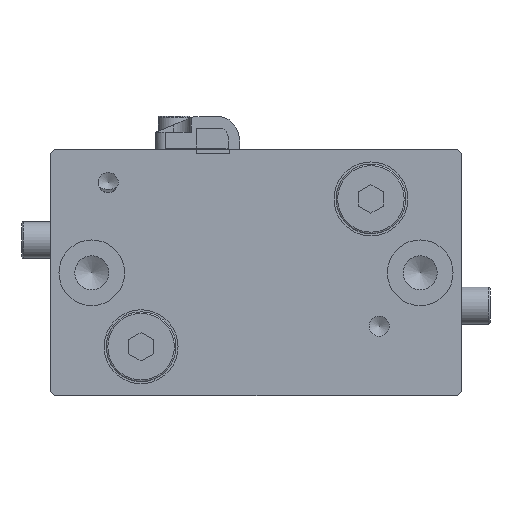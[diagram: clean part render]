
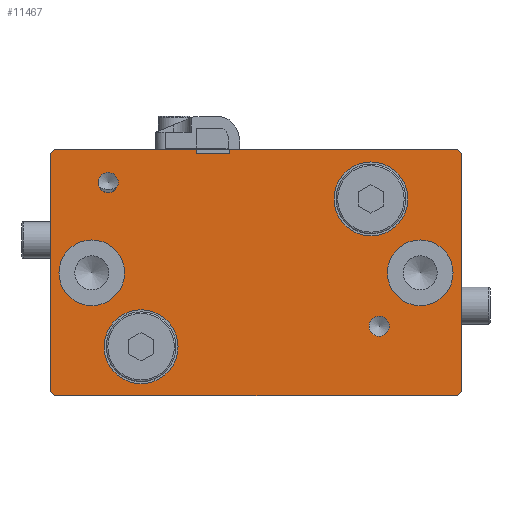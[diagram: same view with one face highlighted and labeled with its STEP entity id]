
A CAD part, front view. The second image highlights one B-rep face of the part: STEP entity #11467.
In plain terms, the highlighted planar face has unit normal (0, -1, 0) as drawn and (0, 1, 0) by its records, which use the part's own axes.
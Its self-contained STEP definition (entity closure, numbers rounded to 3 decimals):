
#295=CIRCLE('',#12029,1.23);
#296=CIRCLE('',#12030,1.23);
#297=CIRCLE('',#12031,4.5);
#298=CIRCLE('',#12032,4.5);
#299=CIRCLE('',#12033,4.);
#300=CIRCLE('',#12034,4.);
#597=ORIENTED_EDGE('',*,*,#3148,.T.);
#598=ORIENTED_EDGE('',*,*,#3149,.T.);
#599=ORIENTED_EDGE('',*,*,#3150,.T.);
#600=ORIENTED_EDGE('',*,*,#3151,.T.);
#601=ORIENTED_EDGE('',*,*,#3152,.T.);
#602=ORIENTED_EDGE('',*,*,#3153,.T.);
#603=ORIENTED_EDGE('',*,*,#3154,.T.);
#604=ORIENTED_EDGE('',*,*,#3155,.T.);
#605=ORIENTED_EDGE('',*,*,#3132,.T.);
#606=ORIENTED_EDGE('',*,*,#3156,.T.);
#607=ORIENTED_EDGE('',*,*,#3103,.T.);
#608=ORIENTED_EDGE('',*,*,#3157,.T.);
#609=ORIENTED_EDGE('',*,*,#3158,.T.);
#610=ORIENTED_EDGE('',*,*,#3159,.T.);
#611=ORIENTED_EDGE('',*,*,#3160,.T.);
#612=ORIENTED_EDGE('',*,*,#3161,.T.);
#613=ORIENTED_EDGE('',*,*,#3134,.T.);
#614=ORIENTED_EDGE('',*,*,#3162,.F.);
#3103=EDGE_CURVE('',#4380,#4379,#5267,.T.);
#3132=EDGE_CURVE('',#4406,#4408,#5293,.T.);
#3134=EDGE_CURVE('',#4411,#4409,#5295,.T.);
#3148=EDGE_CURVE('',#4424,#4424,#295,.T.);
#3149=EDGE_CURVE('',#4425,#4425,#296,.T.);
#3150=EDGE_CURVE('',#4426,#4426,#297,.T.);
#3151=EDGE_CURVE('',#4427,#4427,#298,.T.);
#3152=EDGE_CURVE('',#4428,#4428,#299,.T.);
#3153=EDGE_CURVE('',#4429,#4429,#300,.T.);
#3154=EDGE_CURVE('',#4430,#4431,#5306,.T.);
#3155=EDGE_CURVE('',#4431,#4406,#5307,.T.);
#3156=EDGE_CURVE('',#4408,#4380,#5308,.T.);
#3157=EDGE_CURVE('',#4379,#4432,#5309,.T.);
#3158=EDGE_CURVE('',#4432,#4433,#5310,.T.);
#3159=EDGE_CURVE('',#4433,#4434,#5311,.T.);
#3160=EDGE_CURVE('',#4434,#4435,#5312,.T.);
#3161=EDGE_CURVE('',#4435,#4411,#5313,.T.);
#3162=EDGE_CURVE('',#4430,#4409,#5314,.T.);
#4379=VERTEX_POINT('',#15432);
#4380=VERTEX_POINT('',#15434);
#4406=VERTEX_POINT('',#15506);
#4408=VERTEX_POINT('',#15510);
#4409=VERTEX_POINT('',#15514);
#4411=VERTEX_POINT('',#15517);
#4424=VERTEX_POINT('',#15547);
#4425=VERTEX_POINT('',#15549);
#4426=VERTEX_POINT('',#15551);
#4427=VERTEX_POINT('',#15553);
#4428=VERTEX_POINT('',#15555);
#4429=VERTEX_POINT('',#15557);
#4430=VERTEX_POINT('',#15559);
#4431=VERTEX_POINT('',#15560);
#4432=VERTEX_POINT('',#15564);
#4433=VERTEX_POINT('',#15566);
#4434=VERTEX_POINT('',#15568);
#4435=VERTEX_POINT('',#15570);
#5267=LINE('',#15433,#6267);
#5293=LINE('',#15511,#6293);
#5295=LINE('',#15516,#6295);
#5306=LINE('',#15558,#6306);
#5307=LINE('',#15561,#6307);
#5308=LINE('',#15562,#6308);
#5309=LINE('',#15563,#6309);
#5310=LINE('',#15565,#6310);
#5311=LINE('',#15567,#6311);
#5312=LINE('',#15569,#6312);
#5313=LINE('',#15571,#6313);
#5314=LINE('',#15572,#6314);
#6267=VECTOR('',#12830,1000.);
#6293=VECTOR('',#12862,1000.);
#6295=VECTOR('',#12866,1000.);
#6306=VECTOR('',#12901,1000.);
#6307=VECTOR('',#12902,1000.);
#6308=VECTOR('',#12903,1000.);
#6309=VECTOR('',#12904,1000.);
#6310=VECTOR('',#12905,1000.);
#6311=VECTOR('',#12906,1000.);
#6312=VECTOR('',#12907,1000.);
#6313=VECTOR('',#12908,1000.);
#6314=VECTOR('',#12909,1000.);
#7272=EDGE_LOOP('',(#597));
#7273=EDGE_LOOP('',(#598));
#7274=EDGE_LOOP('',(#599));
#7275=EDGE_LOOP('',(#600));
#7276=EDGE_LOOP('',(#601));
#7277=EDGE_LOOP('',(#602));
#7278=EDGE_LOOP('',(#603,#604,#605,#606,#607,#608,#609,#610,#611,#612,#613,
#614));
#7925=FACE_BOUND('',#7272,.T.);
#7926=FACE_BOUND('',#7273,.T.);
#7927=FACE_BOUND('',#7274,.T.);
#7928=FACE_BOUND('',#7275,.T.);
#7929=FACE_BOUND('',#7276,.T.);
#7930=FACE_BOUND('',#7277,.T.);
#7931=FACE_BOUND('',#7278,.T.);
#8587=PLANE('',#12028);
#11467=ADVANCED_FACE('',(#7925,#7926,#7927,#7928,#7929,#7930,#7931),#8587,
 .T.);
#12028=AXIS2_PLACEMENT_3D('',#15545,#12887,#12888);
#12029=AXIS2_PLACEMENT_3D('',#15546,#12889,#12890);
#12030=AXIS2_PLACEMENT_3D('',#15548,#12891,#12892);
#12031=AXIS2_PLACEMENT_3D('',#15550,#12893,#12894);
#12032=AXIS2_PLACEMENT_3D('',#15552,#12895,#12896);
#12033=AXIS2_PLACEMENT_3D('',#15554,#12897,#12898);
#12034=AXIS2_PLACEMENT_3D('',#15556,#12899,#12900);
#12830=DIRECTION('',(0.,0.,1.));
#12862=DIRECTION('',(-1.,0.,0.));
#12866=DIRECTION('',(-1.,0.,0.));
#12887=DIRECTION('',(0.,1.,0.));
#12888=DIRECTION('',(0.,0.,1.));
#12889=DIRECTION('',(0.,-1.,0.));
#12890=DIRECTION('',(0.,0.,-1.));
#12891=DIRECTION('',(0.,-1.,0.));
#12892=DIRECTION('',(0.,0.,-1.));
#12893=DIRECTION('',(0.,-1.,0.));
#12894=DIRECTION('',(0.,0.,-1.));
#12895=DIRECTION('',(0.,-1.,0.));
#12896=DIRECTION('',(0.,0.,-1.));
#12897=DIRECTION('',(0.,-1.,0.));
#12898=DIRECTION('',(0.,0.,-1.));
#12899=DIRECTION('',(0.,-1.,0.));
#12900=DIRECTION('',(0.,0.,-1.));
#12901=DIRECTION('',(-1.,0.,0.));
#12902=DIRECTION('',(0.,0.,-1.));
#12903=DIRECTION('',(-0.707,0.,0.707));
#12904=DIRECTION('',(0.707,0.,0.707));
#12905=DIRECTION('',(1.,0.,0.));
#12906=DIRECTION('',(0.707,0.,-0.707));
#12907=DIRECTION('',(0.,0.,-1.));
#12908=DIRECTION('',(-0.707,0.,-0.707));
#12909=DIRECTION('',(0.,0.,-1.));
#15432=CARTESIAN_POINT('',(-25.,42.,14.5));
#15433=CARTESIAN_POINT('',(-25.,42.,-14.5));
#15434=CARTESIAN_POINT('',(-25.,42.,-14.5));
#15506=CARTESIAN_POINT('',(-7.3,42.,-15.));
#15510=CARTESIAN_POINT('',(-24.5,42.,-15.));
#15511=CARTESIAN_POINT('',(24.5,42.,-15.));
#15514=CARTESIAN_POINT('',(-3.2,42.,-15.));
#15516=CARTESIAN_POINT('',(24.5,42.,-15.));
#15517=CARTESIAN_POINT('',(24.5,42.,-15.));
#15545=CARTESIAN_POINT('',(0.,42.,0.));
#15546=CARTESIAN_POINT('',(15.,42.,6.5));
#15547=CARTESIAN_POINT('',(15.,42.,5.271));
#15548=CARTESIAN_POINT('',(-18.,42.,-11.));
#15549=CARTESIAN_POINT('',(-18.,42.,-12.23));
#15550=CARTESIAN_POINT('',(-14.,42.,9.));
#15551=CARTESIAN_POINT('',(-14.,42.,4.5));
#15552=CARTESIAN_POINT('',(14.,42.,-9.));
#15553=CARTESIAN_POINT('',(14.,42.,-13.5));
#15554=CARTESIAN_POINT('',(-20.,42.,0.));
#15555=CARTESIAN_POINT('',(-20.,42.,-4.));
#15556=CARTESIAN_POINT('',(20.,42.,0.));
#15557=CARTESIAN_POINT('',(20.,42.,-4.));
#15558=CARTESIAN_POINT('',(-3.2,42.,-14.5));
#15559=CARTESIAN_POINT('',(-3.2,42.,-14.5));
#15560=CARTESIAN_POINT('',(-7.3,42.,-14.5));
#15561=CARTESIAN_POINT('',(-7.3,42.,-14.5));
#15562=CARTESIAN_POINT('',(-24.5,42.,-15.));
#15563=CARTESIAN_POINT('',(-25.,42.,14.5));
#15564=CARTESIAN_POINT('',(-24.5,42.,15.));
#15565=CARTESIAN_POINT('',(-24.5,42.,15.));
#15566=CARTESIAN_POINT('',(24.5,42.,15.));
#15567=CARTESIAN_POINT('',(24.5,42.,15.));
#15568=CARTESIAN_POINT('',(25.,42.,14.5));
#15569=CARTESIAN_POINT('',(25.,42.,14.5));
#15570=CARTESIAN_POINT('',(25.,42.,-14.5));
#15571=CARTESIAN_POINT('',(25.,42.,-14.5));
#15572=CARTESIAN_POINT('',(-3.2,42.,-14.5));
